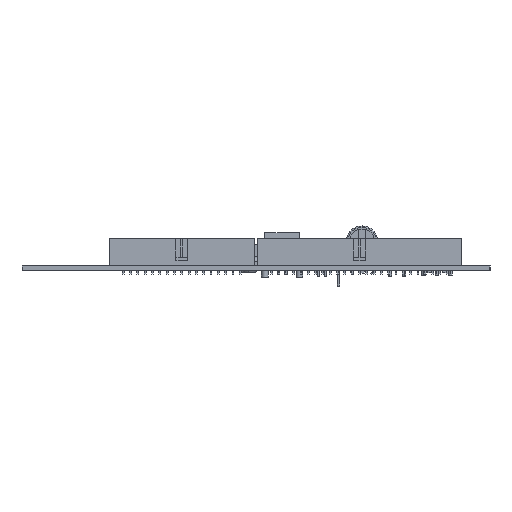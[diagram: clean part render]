
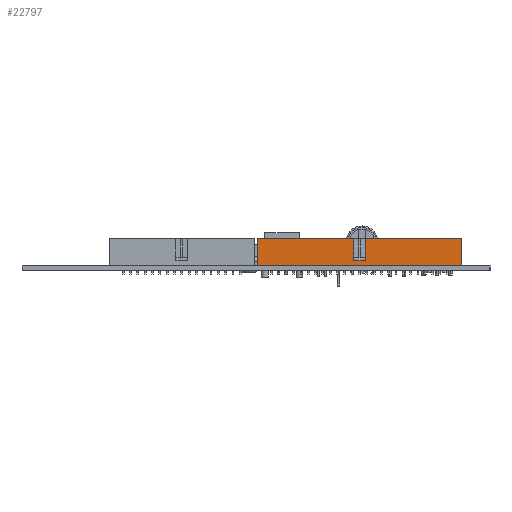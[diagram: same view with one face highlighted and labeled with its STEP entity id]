
A CAD part, left-side view. The second image highlights one B-rep face of the part: STEP entity #22797.
In plain terms, the highlighted planar face has unit normal (-1, 0, 0).
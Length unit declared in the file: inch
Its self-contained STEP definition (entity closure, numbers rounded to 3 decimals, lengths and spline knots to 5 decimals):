
#2439=DIRECTION('',(0.,-1.,0.));
#2440=VECTOR('',#2439,2.79);
#2441=CARTESIAN_POINT('',(-2.795,-0.02,0.062));
#2442=LINE('',#2441,#2440);
#4707=DIRECTION('',(0.,0.,1.));
#4708=VECTOR('',#4707,0.37);
#4709=CARTESIAN_POINT('',(-2.795,-2.81,0.062));
#4710=LINE('',#4709,#4708);
#4711=DIRECTION('',(0.,0.,1.));
#4712=VECTOR('',#4711,0.37);
#4713=CARTESIAN_POINT('',(-2.795,-0.02,0.062));
#4714=LINE('',#4713,#4712);
#4715=DIRECTION('',(0.,0.,-1.));
#4716=VECTOR('',#4715,0.29);
#4717=CARTESIAN_POINT('',(-2.795,-1.335,0.432));
#4718=LINE('',#4717,#4716);
#4719=DIRECTION('',(0.,-1.,0.));
#4720=VECTOR('',#4719,0.16);
#4721=CARTESIAN_POINT('',(-2.795,-1.335,0.142));
#4722=LINE('',#4721,#4720);
#4723=DIRECTION('',(0.,0.,-1.));
#4724=VECTOR('',#4723,0.29);
#4725=CARTESIAN_POINT('',(-2.795,-1.495,0.432));
#4726=LINE('',#4725,#4724);
#4739=DIRECTION('',(0.,-1.,0.));
#4740=VECTOR('',#4739,1.315);
#4741=CARTESIAN_POINT('',(-2.795,-0.02,0.432));
#4742=LINE('',#4741,#4740);
#4755=DIRECTION('',(0.,-1.,0.));
#4756=VECTOR('',#4755,1.315);
#4757=CARTESIAN_POINT('',(-2.795,-1.495,0.432));
#4758=LINE('',#4757,#4756);
#14377=CARTESIAN_POINT('',(-2.795,-2.81,0.432));
#14379=VERTEX_POINT('',#14377);
#14383=CARTESIAN_POINT('',(-2.795,-0.02,0.432));
#14384=VERTEX_POINT('',#14383);
#14405=CARTESIAN_POINT('',(-2.795,-1.335,0.432));
#14407=VERTEX_POINT('',#14405);
#14409=CARTESIAN_POINT('',(-2.795,-1.495,0.432));
#14411=VERTEX_POINT('',#14409);
#14413=CARTESIAN_POINT('',(-2.795,-1.335,0.142));
#14414=VERTEX_POINT('',#14413);
#14415=CARTESIAN_POINT('',(-2.795,-1.495,0.142));
#14416=VERTEX_POINT('',#14415);
#16041=CARTESIAN_POINT('',(-2.795,-2.81,0.062));
#16043=VERTEX_POINT('',#16041);
#16047=CARTESIAN_POINT('',(-2.795,-0.02,0.062));
#16048=VERTEX_POINT('',#16047);
#22776=CARTESIAN_POINT('',(-2.795,-0.02,0.062));
#22777=DIRECTION('',(-1.,0.,0.));
#22778=DIRECTION('',(0.,-1.,0.));
#22779=AXIS2_PLACEMENT_3D('',#22776,#22777,#22778);
#22780=PLANE('',#22779);
#22781=ORIENTED_EDGE('',*,*,#19278,.F.);
#22783=ORIENTED_EDGE('',*,*,#22782,.T.);
#22785=ORIENTED_EDGE('',*,*,#22784,.T.);
#22787=ORIENTED_EDGE('',*,*,#22786,.T.);
#22789=ORIENTED_EDGE('',*,*,#22788,.T.);
#22791=ORIENTED_EDGE('',*,*,#22790,.F.);
#22793=ORIENTED_EDGE('',*,*,#22792,.T.);
#22794=ORIENTED_EDGE('',*,*,#22767,.F.);
#22795=EDGE_LOOP('',(#22781,#22783,#22785,#22787,#22789,#22791,#22793,#22794));
#22796=FACE_OUTER_BOUND('',#22795,.F.);
#22797=ADVANCED_FACE('',(#22796),#22780,.T.);
#19278=EDGE_CURVE('',#16048,#16043,#2442,.T.);
#22767=EDGE_CURVE('',#16043,#14379,#4710,.T.);
#22782=EDGE_CURVE('',#16048,#14384,#4714,.T.);
#22784=EDGE_CURVE('',#14384,#14407,#4742,.T.);
#22786=EDGE_CURVE('',#14407,#14414,#4718,.T.);
#22788=EDGE_CURVE('',#14414,#14416,#4722,.T.);
#22790=EDGE_CURVE('',#14411,#14416,#4726,.T.);
#22792=EDGE_CURVE('',#14411,#14379,#4758,.T.);
